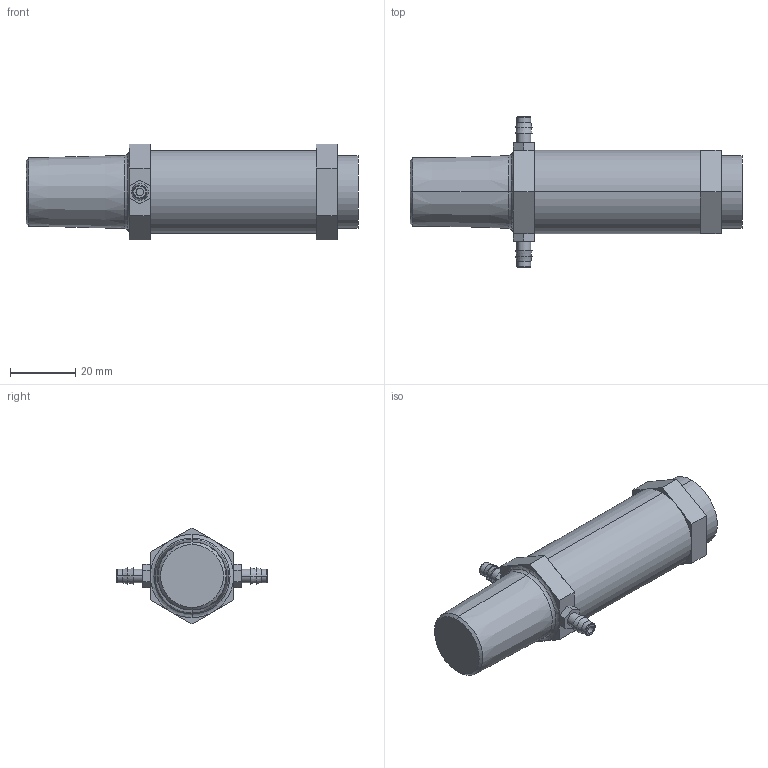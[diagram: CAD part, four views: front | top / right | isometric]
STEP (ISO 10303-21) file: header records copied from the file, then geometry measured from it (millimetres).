
FILE_DESCRIPTION((''),'2;1');
FILE_NAME('XER2_ASM','2017-08-24T',('jennifer.elliott'),('CenterLine (Windsor) Ltd - Automation Components Division'),'PRO/ENGINEER BY PARAMETRIC TECHNOLOGY CORPORATION, 2015030','PRO/ENGINEER BY PARAMETRIC TECHNOLOGY CORPORATION, 2015030','');
FILE_SCHEMA(('AUTOMOTIVE_DESIGN { 1 0 10303 214 1 1 1 1 }'));
Length unit declared in the file: inch
Products named in the file (7): PRT1046; PRT1047; PRT1048; PRT1049; PRT1050; PRT1051; XER2_ASM
Assembly tree (6 placements, depth 2):
  XER2_ASM
    PRT1046
    PRT1047
    PRT1048
    PRT1049
    PRT1050
    PRT1051
Bounding box: 101.47 x 46.02 x 29.33 mm (x, y, z)
Volume: 47211.1 mm3; surface area: 12281.9 mm2
Topology: 6 solids, 6 shells, 94 faces, 198 edges, 122 vertices
Faces by surface type: plane 54, cylinder 16, torus 12, cone 12
Entity records: 2962 total; most frequent: DIRECTION 498, CARTESIAN_POINT 446, ORIENTED_EDGE 396, EDGE_CURVE 198, AXIS2_PLACEMENT_3D 193, VERTEX_POINT 122, VECTOR 112, LINE 112
